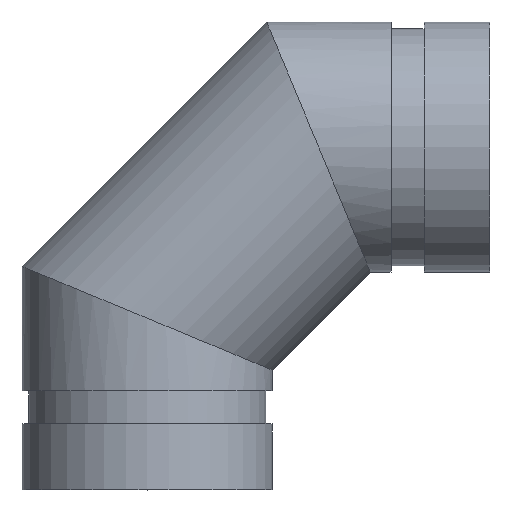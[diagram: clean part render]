
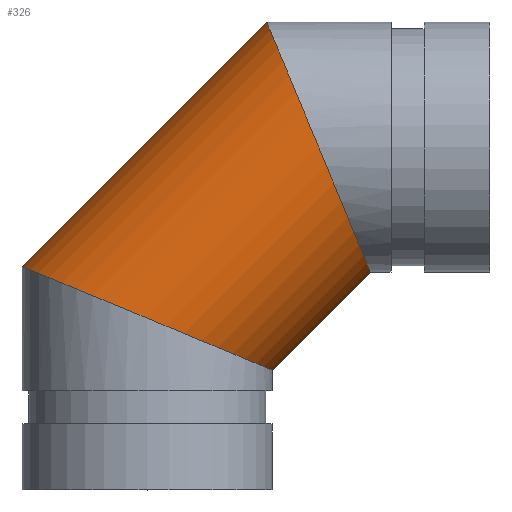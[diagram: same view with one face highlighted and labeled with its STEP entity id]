
A CAD part, top view. The second image highlights one B-rep face of the part: STEP entity #326.
In plain terms, the highlighted cylindrical face has radius 30.163 mm (diameter 60.325 mm), a full revolution.
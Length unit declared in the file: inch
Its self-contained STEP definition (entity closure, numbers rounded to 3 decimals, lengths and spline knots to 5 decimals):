
#51=ELLIPSE('',#383,1.28534,1.1875);
#52=ELLIPSE('',#384,1.28534,1.1875);
#53=ELLIPSE('',#385,1.28534,1.1875);
#54=ELLIPSE('',#388,1.28534,1.1875);
#55=ELLIPSE('',#389,1.28534,1.1875);
#56=ELLIPSE('',#390,1.28534,1.1875);
#82=FACE_OUTER_BOUND('',#103,.T.);
#103=EDGE_LOOP('',(#269,#270,#271,#272,#273,#274,#275,#276));
#115=LINE('',#606,#125);
#125=VECTOR('',#494,1.1875);
#165=VERTEX_POINT('',#596);
#166=VERTEX_POINT('',#598);
#167=VERTEX_POINT('',#600);
#168=VERTEX_POINT('',#605);
#169=VERTEX_POINT('',#607);
#170=VERTEX_POINT('',#609);
#201=EDGE_CURVE('',#165,#166,#51,.T.);
#202=EDGE_CURVE('',#167,#166,#52,.T.);
#203=EDGE_CURVE('',#167,#165,#53,.T.);
#204=EDGE_CURVE('',#165,#168,#115,.T.);
#205=EDGE_CURVE('',#168,#169,#54,.T.);
#206=EDGE_CURVE('',#170,#169,#55,.T.);
#207=EDGE_CURVE('',#170,#168,#56,.T.);
#269=ORIENTED_EDGE('',*,*,#203,.F.);
#270=ORIENTED_EDGE('',*,*,#202,.T.);
#271=ORIENTED_EDGE('',*,*,#201,.F.);
#272=ORIENTED_EDGE('',*,*,#204,.T.);
#273=ORIENTED_EDGE('',*,*,#205,.T.);
#274=ORIENTED_EDGE('',*,*,#206,.F.);
#275=ORIENTED_EDGE('',*,*,#207,.T.);
#276=ORIENTED_EDGE('',*,*,#204,.F.);
#293=CYLINDRICAL_SURFACE('',#387,1.1875);
#326=ADVANCED_FACE('',(#82),#293,.T.);
#383=AXIS2_PLACEMENT_3D('',#599,#484,#485);
#384=AXIS2_PLACEMENT_3D('',#601,#486,#487);
#385=AXIS2_PLACEMENT_3D('',#602,#488,#489);
#387=AXIS2_PLACEMENT_3D('',#604,#492,#493);
#388=AXIS2_PLACEMENT_3D('',#608,#495,#496);
#389=AXIS2_PLACEMENT_3D('',#610,#497,#498);
#390=AXIS2_PLACEMENT_3D('',#611,#499,#500);
#484=DIRECTION('center_axis',(-0.383,-0.924,0.));
#485=DIRECTION('ref_axis',(0.924,-0.383,0.));
#486=DIRECTION('center_axis',(0.383,0.924,0.));
#487=DIRECTION('ref_axis',(0.924,-0.383,0.));
#488=DIRECTION('center_axis',(-0.383,-0.924,0.));
#489=DIRECTION('ref_axis',(0.924,-0.383,0.));
#492=DIRECTION('center_axis',(-0.707,-0.707,0.));
#493=DIRECTION('ref_axis',(0.707,-0.707,0.));
#494=DIRECTION('',(0.707,0.707,0.));
#495=DIRECTION('center_axis',(-0.924,-0.383,0.));
#496=DIRECTION('ref_axis',(0.383,-0.924,0.));
#497=DIRECTION('center_axis',(0.924,0.383,0.));
#498=DIRECTION('ref_axis',(0.383,-0.924,0.));
#499=DIRECTION('center_axis',(-0.924,-0.383,0.));
#500=DIRECTION('ref_axis',(0.383,-0.924,0.));
#596=CARTESIAN_POINT('',(-1.1875,-1.13312,0.));
#598=CARTESIAN_POINT('',(0.,-1.625,-1.1875));
#599=CARTESIAN_POINT('Origin',(0.,-1.625,0.));
#600=CARTESIAN_POINT('',(0.,-1.625,1.1875));
#601=CARTESIAN_POINT('Origin',(0.,-1.625,0.));
#602=CARTESIAN_POINT('Origin',(0.,-1.625,0.));
#604=CARTESIAN_POINT('Origin',(1.625,0.,0.));
#605=CARTESIAN_POINT('',(1.13312,1.1875,0.));
#606=CARTESIAN_POINT('',(0.78531,0.83969,0.));
#607=CARTESIAN_POINT('',(1.625,0.,-1.1875));
#608=CARTESIAN_POINT('Origin',(1.625,0.,0.));
#609=CARTESIAN_POINT('',(1.625,0.,1.1875));
#610=CARTESIAN_POINT('Origin',(1.625,0.,0.));
#611=CARTESIAN_POINT('Origin',(1.625,0.,0.));
